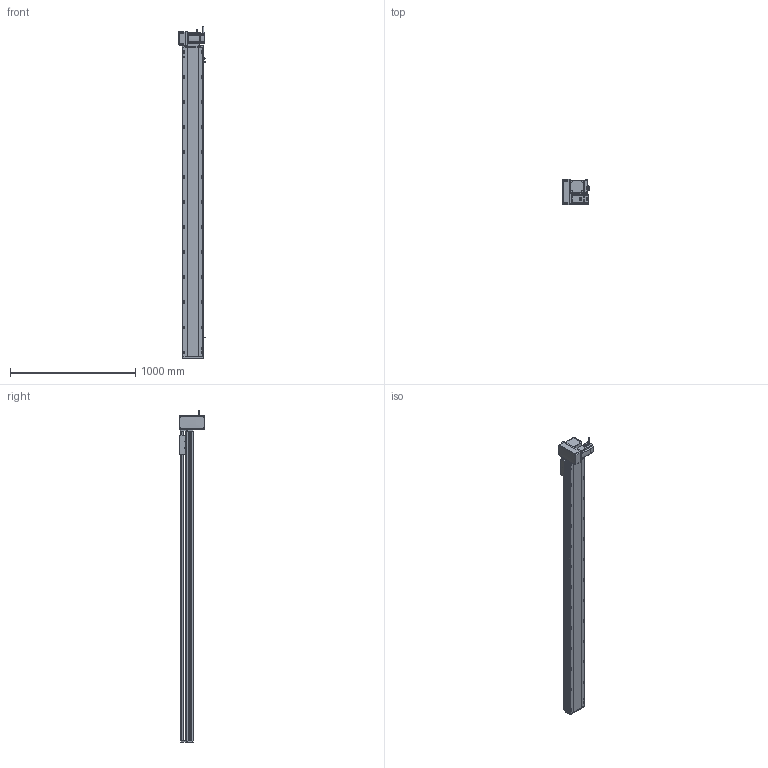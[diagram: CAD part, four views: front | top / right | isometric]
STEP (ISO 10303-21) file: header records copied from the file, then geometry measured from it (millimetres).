
FILE_DESCRIPTION (( 'STEP AP214' ), '1' );
FILE_NAME ('RTB17S-XX-2200-LM-M75-C4.STEP', '2025-12-12T00:45:19', ( '' ), ( '' ), 'SwSTEP 2.0', 'SolidWorks 2018', '' );
FILE_SCHEMA (( 'AUTOMOTIVE_DESIGN' ));
Length unit declared in the file: millimetre
Products named in the file (15): RTB17S-賑釱^RTB17S-XX-XX-LM-M75-C4; RTB17S-L-014-T20-P75--々湍釱^RTB17S-LM-々湍釱蚾饜-750W_RTB17S-XX-XX-LM-M75-C4; RTH13-BL-012覜茼え俋离^RTB17S-賑釱_RTB17S-XX-XX-LM-M75-C4; RTB22S-GY-018P^RTB17S-LM-々湍釱蚾饜-750W_RTB17S-XX-XX-LM-M75-C4; RTB17S-L-001-耜醱啣^RTB17S-XX-XX-LM-M75-C4; RTB17S-XX-2200-LM-M75-C4; RTB17S-L-004-賑釱^RTB17S-賑釱_RTB17S-XX-XX-LM-M75-C4; RTB22S-GY-017P^RTB17S-LM-々湍釱蚾饜-750W_RTB17S-XX-XX-LM-M75-C4; RTB22S-GY-008-M75--萇儂啣^RTB17S-LM-々湍釱蚾饜-750W_RTB17S-XX-XX-LM-M75-C4; 750W萇儂^RTB17S-XX-XX-LM-M75-C4; RTB22S-GY-005P^RTB17S-LM-々湍釱蚾饜-750W_RTB17S-XX-XX-LM-M75-C4; RTB17-R-011菁釱^RTB17S-XX-XX-LM-M75-C4; RTB17S-LM-々湍釱蚾饜-750W^RTB17S-XX-XX-LM-M75-C4; EE672^RTB17S-XX-XX-LM-M75-C4; RTB17S-L-007奻裔^RTB17S-XX-XX-LM-M75-C4
Assembly tree (17 placements, depth 3):
  RTB17S-XX-2200-LM-M75-C4
    RTB17-R-011菁釱^RTB17S-XX-XX-LM-M75-C4
    EE672^RTB17S-XX-XX-LM-M75-C4  x3
    RTB17S-L-001-耜醱啣^RTB17S-XX-XX-LM-M75-C4
    RTB17S-賑釱^RTB17S-XX-XX-LM-M75-C4
      RTB17S-L-004-賑釱^RTB17S-賑釱_RTB17S-XX-XX-LM-M75-C4
      RTH13-BL-012覜茼え俋离^RTB17S-賑釱_RTB17S-XX-XX-LM-M75-C4
    RTB17S-L-007奻裔^RTB17S-XX-XX-LM-M75-C4
    750W萇儂^RTB17S-XX-XX-LM-M75-C4
    RTB17S-LM-々湍釱蚾饜-750W^RTB17S-XX-XX-LM-M75-C4
      RTB17S-L-014-T20-P75--々湍釱^RTB17S-LM-々湍釱蚾饜-750W_RTB17S-XX-XX-LM-M75-C4
      RTB22S-GY-005P^RTB17S-LM-々湍釱蚾饜-750W_RTB17S-XX-XX-LM-M75-C4
      RTB22S-GY-017P^RTB17S-LM-々湍釱蚾饜-750W_RTB17S-XX-XX-LM-M75-C4  x2
      RTB22S-GY-008-M75--萇儂啣^RTB17S-LM-々湍釱蚾饜-750W_RTB17S-XX-XX-LM-M75-C4
      RTB22S-GY-018P^RTB17S-LM-々湍釱蚾饜-750W_RTB17S-XX-XX-LM-M75-C4
Bounding box: 210.4 x 200 x 2652.2 mm (x, y, z)
Volume: 19705150.8 mm3; surface area: 3544014.8 mm2
Topology: 17 solids, 17 shells, 2185 faces, 6106 edges, 3950 vertices
Faces by surface type: plane 982, cylinder 787, bspline 294, cone 110, sphere 8, torus 4
Entity records: 62710 total; most frequent: CARTESIAN_POINT 18570, ORIENTED_EDGE 9056, DIRECTION 8402, EDGE_CURVE 4528, AXIS2_PLACEMENT_3D 2970, VERTEX_POINT 2954, LINE 2462, VECTOR 2462
